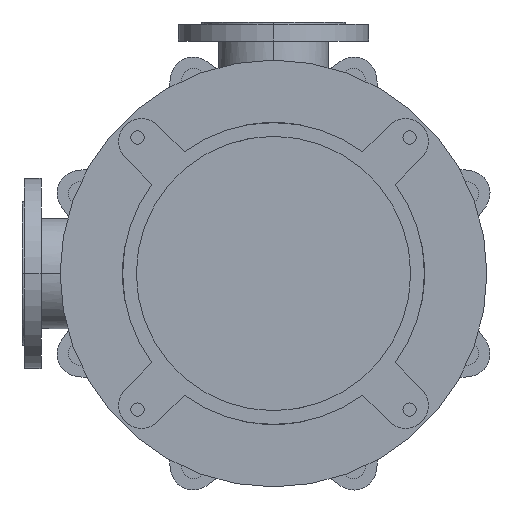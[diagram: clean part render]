
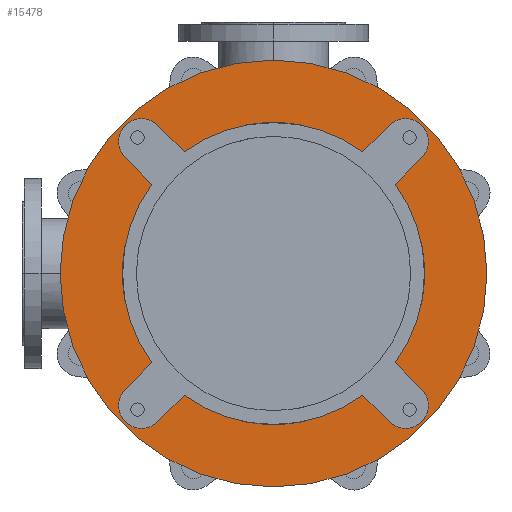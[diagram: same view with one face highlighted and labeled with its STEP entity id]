
A CAD part, front view. The second image highlights one B-rep face of the part: STEP entity #15478.
In plain terms, the highlighted planar face has unit normal (0, -1, 0).
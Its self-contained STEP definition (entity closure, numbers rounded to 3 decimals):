
#4311=CARTESIAN_POINT('',(0.,-25.,0.));
#4312=DIRECTION('',(0.,1.,0.));
#4313=DIRECTION('',(0.592,0.,-0.806));
#4314=AXIS2_PLACEMENT_3D('',#4311,#4312,#4313);
#4329=CARTESIAN_POINT('',(0.,-25.,0.));
#4330=DIRECTION('',(0.,1.,0.));
#4331=DIRECTION('',(0.806,0.,0.592));
#4332=AXIS2_PLACEMENT_3D('',#4329,#4330,#4331);
#4356=CARTESIAN_POINT('',(0.,-25.,0.));
#4357=DIRECTION('',(0.,1.,0.));
#4358=DIRECTION('',(-0.806,0.,-0.592));
#4359=AXIS2_PLACEMENT_3D('',#4356,#4357,#4358);
#4365=CARTESIAN_POINT('',(0.,-25.,0.));
#4366=DIRECTION('',(0.,1.,0.));
#4367=DIRECTION('',(-0.592,0.,0.806));
#4368=AXIS2_PLACEMENT_3D('',#4365,#4366,#4367);
#4543=CARTESIAN_POINT('',(0.,-25.,0.));
#4544=DIRECTION('',(0.,-1.,0.));
#4545=DIRECTION('',(-1.,0.,0.));
#4546=AXIS2_PLACEMENT_3D('',#4543,#4544,#4545);
#4548=CARTESIAN_POINT('',(0.,-25.,0.));
#4549=DIRECTION('',(0.,1.,0.));
#4550=DIRECTION('',(-1.,0.,0.));
#4551=AXIS2_PLACEMENT_3D('',#4548,#4549,#4550);
#4553=CARTESIAN_POINT('',(-173.241,-25.,173.241));
#4554=DIRECTION('',(0.,-1.,0.));
#4555=DIRECTION('',(0.707,0.,0.707));
#4556=AXIS2_PLACEMENT_3D('',#4553,#4554,#4555);
#4558=DIRECTION('',(0.707,0.,-0.707));
#4559=VECTOR('',#4558,49.286);
#4560=CARTESIAN_POINT('',(-194.454,-25.,152.028));
#4561=LINE('',#4560,#4559);
#4562=DIRECTION('',(-0.707,0.,-0.707));
#4563=VECTOR('',#4562,49.286);
#4564=CARTESIAN_POINT('',(-159.604,-25.,-117.178));
#4565=LINE('',#4564,#4563);
#4566=CARTESIAN_POINT('',(-173.241,-25.,-173.241));
#4567=DIRECTION('',(0.,-1.,0.));
#4568=DIRECTION('',(-0.707,0.,0.707));
#4569=AXIS2_PLACEMENT_3D('',#4566,#4567,#4568);
#4571=DIRECTION('',(0.707,0.,0.707));
#4572=VECTOR('',#4571,49.286);
#4573=CARTESIAN_POINT('',(-152.028,-25.,-194.454));
#4574=LINE('',#4573,#4572);
#4575=DIRECTION('',(0.707,0.,-0.707));
#4576=VECTOR('',#4575,49.286);
#4577=CARTESIAN_POINT('',(117.178,-25.,-159.604));
#4578=LINE('',#4577,#4576);
#4579=CARTESIAN_POINT('',(173.241,-25.,-173.241));
#4580=DIRECTION('',(0.,-1.,0.));
#4581=DIRECTION('',(-0.707,0.,-0.707));
#4582=AXIS2_PLACEMENT_3D('',#4579,#4580,#4581);
#4584=DIRECTION('',(-0.707,0.,0.707));
#4585=VECTOR('',#4584,49.286);
#4586=CARTESIAN_POINT('',(194.454,-25.,-152.028));
#4587=LINE('',#4586,#4585);
#4588=DIRECTION('',(0.707,0.,0.707));
#4589=VECTOR('',#4588,49.286);
#4590=CARTESIAN_POINT('',(159.604,-25.,117.178));
#4591=LINE('',#4590,#4589);
#4592=CARTESIAN_POINT('',(173.241,-25.,173.241));
#4593=DIRECTION('',(0.,-1.,0.));
#4594=DIRECTION('',(0.707,0.,-0.707));
#4595=AXIS2_PLACEMENT_3D('',#4592,#4593,#4594);
#4597=DIRECTION('',(-0.707,0.,-0.707));
#4598=VECTOR('',#4597,49.286);
#4599=CARTESIAN_POINT('',(152.028,-25.,194.454));
#4600=LINE('',#4599,#4598);
#4601=DIRECTION('',(-0.707,0.,0.707));
#4602=VECTOR('',#4601,49.286);
#4603=CARTESIAN_POINT('',(-117.178,-25.,159.604));
#4604=LINE('',#4603,#4602);
#8374=CARTESIAN_POINT('',(-280.,-25.,0.));
#8375=CARTESIAN_POINT('',(280.,-25.,0.));
#8376=VERTEX_POINT('',#8374);
#8377=VERTEX_POINT('',#8375);
#8398=CARTESIAN_POINT('',(-194.454,-25.,-152.028));
#8399=CARTESIAN_POINT('',(-152.028,-25.,-194.454));
#8400=VERTEX_POINT('',#8398);
#8401=VERTEX_POINT('',#8399);
#8402=CARTESIAN_POINT('',(-117.178,-25.,-159.604));
#8403=VERTEX_POINT('',#8402);
#8404=CARTESIAN_POINT('',(-159.604,-25.,-117.178));
#8405=VERTEX_POINT('',#8404);
#8414=CARTESIAN_POINT('',(152.028,-25.,-194.454));
#8415=CARTESIAN_POINT('',(194.454,-25.,-152.028));
#8416=VERTEX_POINT('',#8414);
#8417=VERTEX_POINT('',#8415);
#8418=CARTESIAN_POINT('',(159.604,-25.,-117.178));
#8419=VERTEX_POINT('',#8418);
#8420=CARTESIAN_POINT('',(117.178,-25.,-159.604));
#8421=VERTEX_POINT('',#8420);
#8430=CARTESIAN_POINT('',(194.454,-25.,152.028));
#8431=CARTESIAN_POINT('',(152.028,-25.,194.454));
#8432=VERTEX_POINT('',#8430);
#8433=VERTEX_POINT('',#8431);
#8434=CARTESIAN_POINT('',(117.178,-25.,159.604));
#8435=VERTEX_POINT('',#8434);
#8436=CARTESIAN_POINT('',(159.604,-25.,117.178));
#8437=VERTEX_POINT('',#8436);
#8446=CARTESIAN_POINT('',(-152.028,-25.,194.454));
#8447=CARTESIAN_POINT('',(-194.454,-25.,152.028));
#8448=VERTEX_POINT('',#8446);
#8449=VERTEX_POINT('',#8447);
#8450=CARTESIAN_POINT('',(-159.604,-25.,117.178));
#8451=VERTEX_POINT('',#8450);
#8452=CARTESIAN_POINT('',(-117.178,-25.,159.604));
#8453=VERTEX_POINT('',#8452);
#15438=CARTESIAN_POINT('',(0.,-25.,0.));
#15439=DIRECTION('',(0.,-1.,0.));
#15440=DIRECTION('',(-1.,0.,0.));
#15441=AXIS2_PLACEMENT_3D('',#15438,#15439,#15440);
#15442=PLANE('',#15441);
#15444=ORIENTED_EDGE('',*,*,#15443,.F.);
#15446=ORIENTED_EDGE('',*,*,#15445,.T.);
#15447=EDGE_LOOP('',(#15444,#15446));
#15448=FACE_OUTER_BOUND('',#15447,.F.);
#15450=ORIENTED_EDGE('',*,*,#15449,.T.);
#15452=ORIENTED_EDGE('',*,*,#15451,.T.);
#15453=ORIENTED_EDGE('',*,*,#15391,.F.);
#15455=ORIENTED_EDGE('',*,*,#15454,.T.);
#15457=ORIENTED_EDGE('',*,*,#15456,.T.);
#15459=ORIENTED_EDGE('',*,*,#15458,.T.);
#15460=ORIENTED_EDGE('',*,*,#15344,.F.);
#15461=ORIENTED_EDGE('',*,*,#15428,.T.);
#15463=ORIENTED_EDGE('',*,*,#15462,.T.);
#15465=ORIENTED_EDGE('',*,*,#15464,.T.);
#15466=ORIENTED_EDGE('',*,*,#15365,.F.);
#15468=ORIENTED_EDGE('',*,*,#15467,.T.);
#15470=ORIENTED_EDGE('',*,*,#15469,.T.);
#15472=ORIENTED_EDGE('',*,*,#15471,.T.);
#15473=ORIENTED_EDGE('',*,*,#15409,.F.);
#15475=ORIENTED_EDGE('',*,*,#15474,.T.);
#15476=EDGE_LOOP('',(#15450,#15452,#15453,#15455,#15457,#15459,#15460,#15461,
#15463,#15465,#15466,#15468,#15470,#15472,#15473,#15475));
#15477=FACE_BOUND('',#15476,.F.);
#15478=ADVANCED_FACE('',(#15448,#15477),#15442,.T.);
#4315=CIRCLE('',#4314,198.);
#4333=CIRCLE('',#4332,198.);
#4360=CIRCLE('',#4359,198.);
#4369=CIRCLE('',#4368,198.);
#4547=CIRCLE('',#4546,280.);
#4552=CIRCLE('',#4551,280.);
#4557=CIRCLE('',#4556,30.);
#4570=CIRCLE('',#4569,30.);
#4583=CIRCLE('',#4582,30.);
#4596=CIRCLE('',#4595,30.);
#15344=EDGE_CURVE('',#8421,#8403,#4315,.T.);
#15365=EDGE_CURVE('',#8437,#8419,#4333,.T.);
#15391=EDGE_CURVE('',#8405,#8451,#4360,.T.);
#15409=EDGE_CURVE('',#8453,#8435,#4369,.T.);
#15428=EDGE_CURVE('',#8421,#8416,#4578,.T.);
#15443=EDGE_CURVE('',#8376,#8377,#4547,.T.);
#15445=EDGE_CURVE('',#8376,#8377,#4552,.T.);
#15449=EDGE_CURVE('',#8448,#8449,#4557,.T.);
#15451=EDGE_CURVE('',#8449,#8451,#4561,.T.);
#15454=EDGE_CURVE('',#8405,#8400,#4565,.T.);
#15456=EDGE_CURVE('',#8400,#8401,#4570,.T.);
#15458=EDGE_CURVE('',#8401,#8403,#4574,.T.);
#15462=EDGE_CURVE('',#8416,#8417,#4583,.T.);
#15464=EDGE_CURVE('',#8417,#8419,#4587,.T.);
#15467=EDGE_CURVE('',#8437,#8432,#4591,.T.);
#15469=EDGE_CURVE('',#8432,#8433,#4596,.T.);
#15471=EDGE_CURVE('',#8433,#8435,#4600,.T.);
#15474=EDGE_CURVE('',#8453,#8448,#4604,.T.);
